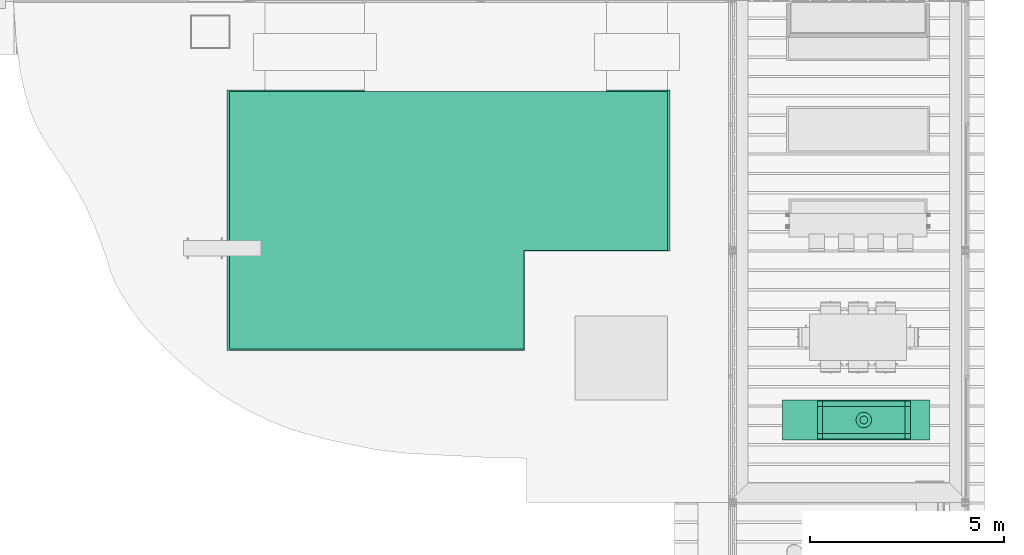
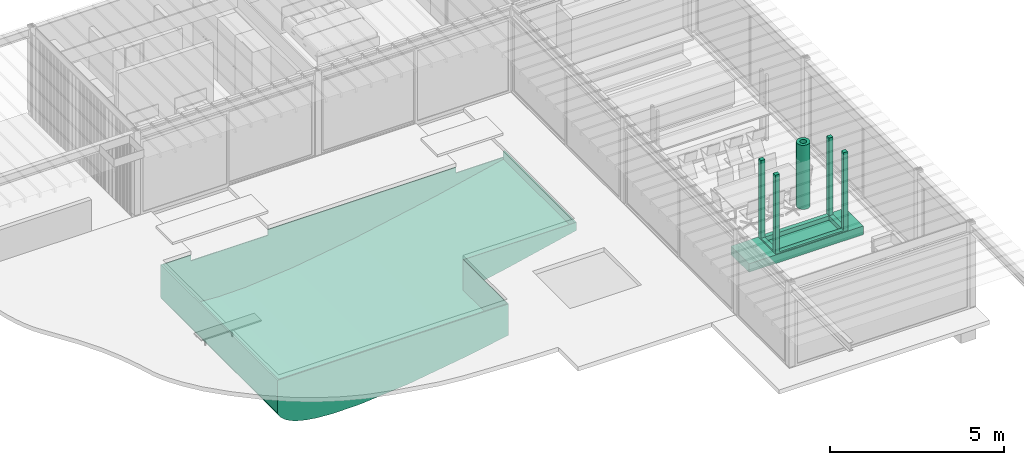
# One storey, part 22 of 28: 1 sanitary terminal, 1 space heater.
"""IFC4X3_ADD2 building model written with IfcOpenShell, lengths in metres."""

from ifc_helpers import new_model, si_unit, direction, frame, origin_with_axes, place, context, subcontext, project, spatial, faceted_brep, triangles, source, transform, mapped, material, element, save


model = new_model("IFC4X3_ADD2")

# Units and contexts
model_context = context("Model", 3, precision=1e-05, world=origin_with_axes(), true_north=direction((0.0, 1.0)))
body_context = subcontext(model_context, "Body", "Model", "MODEL_VIEW")
ifc_project = project(units=[si_unit("LENGTHUNIT", "METRE"), si_unit("AREAUNIT", "SQUARE_METRE"), si_unit("VOLUMEUNIT", "CUBIC_METRE"), si_unit("PLANEANGLEUNIT", "RADIAN"), si_unit("TIMEUNIT", "SECOND"), si_unit("MASSUNIT", "GRAM")], contexts=[model_context])

# Site, building, storey, space
site_placement = place(None, origin_with_axes())
site = spatial("IfcSite", under=ifc_project, at=site_placement, Name="Site", CompositionType="ELEMENT")
building_placement = place(site_placement, origin_with_axes())
building = spatial("IfcBuilding", under=site, at=building_placement, Name="Default Building")
storey_placement = place(building_placement, frame((0.0, 0.0, -0.08), z_axis=(0.0, 0.0, 1.0), x_axis=(1.0, 0.0, 0.0)))
storey = spatial("IfcBuildingStorey", under=building, at=storey_placement, Name="Gruendung", Elevation=-0.08)
space_placement = place(storey_placement, frame((19.1, 9.5, 0.08), z_axis=(0.0, 0.0, 1.0), x_axis=(0.0, -1.0, 0.0)))
space = spatial("IfcSpace", under=storey, at=space_placement, Name="Space", CompositionType="ELEMENT", PredefinedType="SPACE")

# Space heater
ifc_material = material(Name="Default")
shared_shape = source(origin_with_axes(), body_context, "Body", None, [
    triangles([(-1.520414, 0.35281, 0.2), (0.60585, 0.35281, 0.2), (-1.520414, 0.35281, 0.35), (0.60585, 0.35281, 0.35), (0.60585, 0.489679, 0.2), (0.60585, 0.489679, 0.35), (-1.520414, 0.489679, 0.2), (-1.520414, 0.489679, 0.35), (0.60585, -0.353453, 0.2), (0.742718, -0.353453, 0.2), (0.60585, -0.353453, 0.35), (0.742718, -0.353453, 0.35), (0.742718, 0.35281, 0.2), (0.742718, 0.35281, 0.35), (-1.520414, -0.4903210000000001, 0.2), (0.60585, -0.4903210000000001, 0.2), (-1.520414, -0.4903210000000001, 0.35), (0.60585, -0.4903210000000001, 0.35), (-1.520414, -0.353453, 0.2), (-1.520414, -0.353453, 0.35), (-1.657282, -0.353453, 0.2), (-1.657282, -0.353453, 0.35), (-1.657282, 0.35281, 0.2), (-1.657282, 0.35281, 0.35)], [[1, 2, 3], [4, 3, 2], [2, 5, 4], [6, 4, 5], [5, 7, 6], [8, 6, 7], [7, 1, 8], [3, 8, 1], [7, 5, 2], [7, 2, 1], [8, 6, 4], [8, 4, 3], [9, 10, 11], [12, 11, 10], [10, 13, 12], [14, 12, 13], [13, 2, 14], [4, 14, 2], [2, 9, 4], [11, 4, 9], [2, 13, 10], [2, 10, 9], [4, 14, 12], [4, 12, 11], [15, 16, 17], [18, 17, 16], [16, 9, 18], [11, 18, 9], [9, 19, 11], [20, 11, 19], [19, 15, 20], [17, 20, 15], [19, 9, 16], [19, 16, 15], [20, 11, 18], [20, 18, 17], [21, 19, 22], [20, 22, 19], [19, 1, 20], [3, 20, 1], [1, 23, 3], [24, 3, 23], [23, 21, 24], [22, 24, 21], [23, 1, 19], [23, 19, 21], [24, 3, 20], [24, 20, 22]]),
    faceted_brep([(-1.520414, -0.353453, 3.075), (-1.520414, -0.4903210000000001, 3.075), (-1.657282, -0.4903210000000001, 3.075), (-1.657282, -0.353453, 3.075), (-1.520414, -0.353453, 0.0), (-1.520414, -0.4903210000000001, 0.0), (-1.657282, -0.4903210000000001, 0.0), (-1.657282, -0.353453, 0.0)], [[[0, 1, 2, 3]], [[4, 5, 6, 7]], [[3, 7, 6, 2]], [[0, 4, 7, 3]], [[1, 5, 4, 0]], [[2, 6, 5, 1]]]),
    faceted_brep([(0.742718, -0.353453, 3.075), (0.742718, -0.4903210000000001, 3.075), (0.60585, -0.4903210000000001, 3.075), (0.60585, -0.353453, 3.075), (0.742718, -0.353453, 0.0), (0.742718, -0.4903210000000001, 0.0), (0.60585, -0.4903210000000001, 0.0), (0.60585, -0.353453, 0.0)], [[[0, 1, 2, 3]], [[4, 5, 6, 7]], [[3, 7, 6, 2]], [[0, 4, 7, 3]], [[1, 5, 4, 0]], [[2, 6, 5, 1]]]),
    faceted_brep([(0.742718, 0.489679, 3.075), (0.742718, 0.35281, 3.075), (0.60585, 0.35281, 3.075), (0.60585, 0.489679, 3.075), (0.742718, 0.489679, 0.0), (0.742718, 0.35281, 0.0), (0.60585, 0.35281, 0.0), (0.60585, 0.489679, 0.0)], [[[0, 1, 2, 3]], [[4, 5, 6, 7]], [[3, 7, 6, 2]], [[0, 4, 7, 3]], [[1, 5, 4, 0]], [[2, 6, 5, 1]]]),
    faceted_brep([(-1.520414, 0.35281, 3.075), (-1.520414, 0.489679, 3.075), (-1.657282, 0.489679, 3.075), (-1.657282, 0.35281, 3.075), (-1.520414, 0.489679, 0.0), (-1.520414, 0.35281, 0.0), (-1.657282, 0.35281, 0.0), (-1.657282, 0.489679, 0.0)], [[[0, 1, 2, 3]], [[4, 5, 6, 7]], [[2, 7, 6, 3]], [[1, 4, 7, 2]], [[0, 5, 4, 1]], [[3, 6, 5, 0]]]),
    faceted_brep([(-1.657282, 0.489679, 0.2), (0.742718, 0.489679, 0.2), (0.742718, 0.489679, 0.3), (-1.657282, 0.489679, 0.3), (0.742718, -0.4903210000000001, 0.2), (0.742718, -0.4903210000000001, 0.3), (-1.657282, -0.4903210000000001, 0.2), (-1.657282, -0.4903210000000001, 0.3), (-2.557282, 0.52, 0.3), (1.242718, 0.52, 0.3), (1.242718, 0.52, 0.0), (-2.557282, 0.52, 0.0), (1.242718, -0.52, 0.3), (1.242718, -0.52, 0.0), (-2.557282, -0.52, 0.3), (-2.557282, -0.52, 0.0)], [[[0, 1, 2, 3]], [[1, 4, 5, 2]], [[4, 6, 7, 5]], [[4, 1, 0, 6]], [[6, 0, 3, 7]], [[8, 9, 10, 11]], [[9, 12, 13, 10]], [[12, 14, 15, 13]], [[10, 13, 15, 11]], [[14, 8, 11, 15]], [[9, 8, 14, 12], [5, 7, 3, 2]]]),
    faceted_brep([(-0.557282, -0.000321, 3.55), (-0.556902, -0.009037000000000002, 3.55), (-0.556902, -0.009037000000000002, 1.3), (-0.557282, -0.000321, 1.3), (-0.555763, -0.017686, 3.55), (-0.555763, -0.017686, 1.3), (-0.553875, -0.026203, 3.55), (-0.553875, -0.026203, 1.3), (-0.551252, -0.03452300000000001, 3.55), (-0.551252, -0.03452300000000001, 1.3), (-0.547913, -0.042583, 3.55), (-0.547913, -0.042583, 1.3), (-0.543885, -0.050321, 3.55), (-0.543885, -0.050321, 1.3), (-0.539197, -0.057679, 3.55), (-0.539197, -0.057679, 1.3), (-0.533887, -0.06459999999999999, 3.55), (-0.533887, -0.06459999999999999, 1.3), (-0.527993, -0.071032, 3.55), (-0.527993, -0.071032, 1.3), (-0.521561, -0.07692600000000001, 3.55), (-0.521561, -0.07692600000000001, 1.3), (-0.51464, -0.08223699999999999, 3.55), (-0.51464, -0.08223699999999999, 1.3), (-0.507282, -0.08692400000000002, 3.55), (-0.507282, -0.08692400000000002, 1.3), (-0.499544, -0.090952, 3.55), (-0.499544, -0.090952, 1.3), (-0.491484, -0.094291, 3.55), (-0.491484, -0.094291, 1.3), (-0.483164, -0.096914, 3.55), (-0.483164, -0.096914, 1.3), (-0.474647, -0.09880200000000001, 3.55), (-0.474647, -0.09880200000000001, 1.3), (-0.465998, -0.099941, 3.55), (-0.465998, -0.099941, 1.3), (-0.457282, -0.100321, 3.55), (-0.457282, -0.100321, 1.3), (-0.448567, -0.099941, 3.55), (-0.448567, -0.099941, 1.3), (-0.439917, -0.09880200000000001, 3.55), (-0.439917, -0.09880200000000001, 1.3), (-0.4314, -0.096914, 3.55), (-0.4314, -0.096914, 1.3), (-0.42308, -0.094291, 3.55), (-0.42308, -0.094291, 1.3), (-0.41502, -0.090952, 3.55), (-0.41502, -0.090952, 1.3), (-0.407282, -0.08692400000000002, 3.55), (-0.407282, -0.08692400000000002, 1.3), (-0.399925, -0.08223699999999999, 3.55), (-0.399925, -0.08223699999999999, 1.3), (-0.393003, -0.07692600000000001, 3.55), (-0.393003, -0.07692600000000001, 1.3), (-0.386572, -0.071032, 3.55), (-0.386572, -0.071032, 1.3), (-0.380678, -0.06459999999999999, 3.55), (-0.380678, -0.06459999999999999, 1.3), (-0.375367, -0.057679, 3.55), (-0.375367, -0.057679, 1.3), (-0.37068, -0.050321, 3.55), (-0.37068, -0.050321, 1.3), (-0.366651, -0.042583, 3.55), (-0.366651, -0.042583, 1.3), (-0.363313, -0.03452300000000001, 3.55), (-0.363313, -0.03452300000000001, 1.3), (-0.36069, -0.026203, 3.55), (-0.36069, -0.026203, 1.3), (-0.358801, -0.017686, 3.55), (-0.358801, -0.017686, 1.3), (-0.357663, -0.009037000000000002, 3.55), (-0.357663, -0.009037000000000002, 1.3), (-0.357282, -0.000321, 3.55), (-0.357282, -0.000321, 1.3), (-0.357663, 0.008394, 3.55), (-0.357663, 0.008394, 1.3), (-0.358801, 0.017043, 3.55), (-0.358801, 0.017043, 1.3), (-0.36069, 0.025561, 3.55), (-0.36069, 0.025561, 1.3), (-0.363313, 0.033881, 3.55), (-0.363313, 0.033881, 1.3), (-0.366651, 0.04194, 3.55), (-0.366651, 0.04194, 1.3), (-0.37068, 0.049679, 3.55), (-0.37068, 0.049679, 1.3), (-0.375367, 0.057036, 3.55), (-0.375367, 0.057036, 1.3), (-0.380678, 0.063957, 3.55), (-0.380678, 0.063957, 1.3), (-0.386572, 0.070389, 3.55), (-0.386572, 0.070389, 1.3), (-0.393003, 0.076283, 3.55), (-0.393003, 0.076283, 1.3), (-0.399925, 0.081594, 3.55), (-0.399925, 0.081594, 1.3), (-0.407282, 0.08628100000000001, 3.55), (-0.407282, 0.08628100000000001, 1.3), (-0.41502, 0.090309, 3.55), (-0.41502, 0.090309, 1.3), (-0.42308, 0.093648, 3.55), (-0.42308, 0.093648, 1.3), (-0.4314, 0.09627100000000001, 3.55), (-0.4314, 0.09627100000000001, 1.3), (-0.439917, 0.09815900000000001, 3.55), (-0.439917, 0.09815900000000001, 1.3), (-0.448567, 0.099298, 3.55), (-0.448567, 0.099298, 1.3), (-0.457282, 0.099679, 3.55), (-0.457282, 0.099679, 1.3), (-0.465998, 0.099298, 3.55), (-0.465998, 0.099298, 1.3), (-0.474647, 0.09815900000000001, 3.55), (-0.474647, 0.09815900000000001, 1.3), (-0.483164, 0.09627100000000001, 3.55), (-0.483164, 0.09627100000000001, 1.3), (-0.491484, 0.093648, 3.55), (-0.491484, 0.093648, 1.3), (-0.499544, 0.090309, 3.55), (-0.499544, 0.090309, 1.3), (-0.507282, 0.08628100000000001, 3.55), (-0.507282, 0.08628100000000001, 1.3), (-0.51464, 0.081594, 3.55), (-0.51464, 0.081594, 1.3), (-0.521561, 0.076283, 3.55), (-0.521561, 0.076283, 1.3), (-0.527993, 0.070389, 3.55), (-0.527993, 0.070389, 1.3), (-0.533887, 0.063957, 3.55), (-0.533887, 0.063957, 1.3), (-0.539197, 0.057036, 3.55), (-0.539197, 0.057036, 1.3), (-0.543885, 0.049679, 3.55), (-0.543885, 0.049679, 1.3), (-0.547913, 0.04194, 3.55), (-0.547913, 0.04194, 1.3), (-0.551252, 0.033881, 3.55), (-0.551252, 0.033881, 1.3), (-0.553875, 0.025561, 3.55), (-0.553875, 0.025561, 1.3), (-0.555763, 0.017043, 3.55), (-0.555763, 0.017043, 1.3), (-0.556902, 0.008394, 3.55), (-0.556902, 0.008394, 1.3), (-0.657282, -0.000352, 3.55), (-0.656521, 0.017079, 3.55), (-0.656521, 0.017079, 1.3), (-0.657282, -0.000352, 1.3), (-0.654244, 0.034378, 3.55), (-0.654244, 0.034378, 1.3), (-0.650467, 0.051412, 3.55), (-0.650467, 0.051412, 1.3), (-0.645221, 0.068052, 3.55), (-0.645221, 0.068052, 1.3), (-0.638544, 0.084172, 3.55), (-0.638544, 0.084172, 1.3), (-0.630487, 0.099648, 3.55), (-0.630487, 0.099648, 1.3), (-0.621113, 0.114363, 3.55), (-0.621113, 0.114363, 1.3), (-0.610491, 0.128206, 3.55), (-0.610491, 0.128206, 1.3), (-0.598704, 0.141069, 3.55), (-0.598704, 0.141069, 1.3), (-0.58584, 0.152857, 3.55), (-0.58584, 0.152857, 1.3), (-0.571998, 0.163478, 3.55), (-0.571998, 0.163478, 1.3), (-0.557282, 0.172853, 3.55), (-0.557282, 0.172853, 1.3), (-0.541806, 0.18091, 3.55), (-0.541806, 0.18091, 1.3), (-0.5256860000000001, 0.187587, 3.55), (-0.5256860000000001, 0.187587, 1.3), (-0.509046, 0.192833, 3.55), (-0.509046, 0.192833, 1.3), (-0.492012, 0.19661, 3.55), (-0.492012, 0.19661, 1.3), (-0.4747130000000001, 0.198887, 3.55), (-0.4747130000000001, 0.198887, 1.3), (-0.457282, 0.199648, 3.55), (-0.457282, 0.199648, 1.3), (-0.439851, 0.198887, 3.55), (-0.439851, 0.198887, 1.3), (-0.422553, 0.19661, 3.55), (-0.422553, 0.19661, 1.3), (-0.405518, 0.192833, 3.55), (-0.405518, 0.192833, 1.3), (-0.388878, 0.187587, 3.55), (-0.388878, 0.187587, 1.3), (-0.372759, 0.18091, 3.55), (-0.372759, 0.18091, 1.3), (-0.357282, 0.172853, 3.55), (-0.357282, 0.172853, 1.3), (-0.342567, 0.163478, 3.55), (-0.342567, 0.163478, 1.3), (-0.328725, 0.152857, 3.55), (-0.328725, 0.152857, 1.3), (-0.315861, 0.141069, 3.55), (-0.315861, 0.141069, 1.3), (-0.304073, 0.128206, 3.55), (-0.304073, 0.128206, 1.3), (-0.293452, 0.114363, 3.55), (-0.293452, 0.114363, 1.3), (-0.284077, 0.099648, 3.55), (-0.284077, 0.099648, 1.3), (-0.276021, 0.084172, 3.55), (-0.276021, 0.084172, 1.3), (-0.269344, 0.068052, 3.55), (-0.269344, 0.068052, 1.3), (-0.264097, 0.051412, 3.55), (-0.264097, 0.051412, 1.3), (-0.260321, 0.034378, 3.55), (-0.260321, 0.034378, 1.3), (-0.258043, 0.017079, 3.55), (-0.258043, 0.017079, 1.3), (-0.257282, -0.000352, 3.55), (-0.257282, -0.000352, 1.3), (-0.258043, -0.017783, 3.55), (-0.258043, -0.017783, 1.3), (-0.260321, -0.035082, 3.55), (-0.260321, -0.035082, 1.3), (-0.264097, -0.052116, 3.55), (-0.264097, -0.052116, 1.3), (-0.269344, -0.068756, 3.55), (-0.269344, -0.068756, 1.3), (-0.276021, -0.08487600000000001, 3.55), (-0.276021, -0.08487600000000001, 1.3), (-0.284077, -0.100352, 3.55), (-0.284077, -0.100352, 1.3), (-0.293452, -0.115067, 3.55), (-0.293452, -0.115067, 1.3), (-0.304073, -0.12891, 3.55), (-0.304073, -0.12891, 1.3), (-0.315861, -0.141773, 3.55), (-0.315861, -0.141773, 1.3), (-0.328725, -0.153561, 3.55), (-0.328725, -0.153561, 1.3), (-0.342567, -0.164182, 3.55), (-0.342567, -0.164182, 1.3), (-0.357282, -0.173557, 3.55), (-0.357282, -0.173557, 1.3), (-0.372759, -0.181614, 3.55), (-0.372759, -0.181614, 1.3), (-0.388878, -0.188291, 3.55), (-0.388878, -0.188291, 1.3), (-0.405518, -0.193537, 3.55), (-0.405518, -0.193537, 1.3), (-0.422553, -0.197314, 3.55), (-0.422553, -0.197314, 1.3), (-0.439851, -0.199591, 3.55), (-0.439851, -0.199591, 1.3), (-0.457282, -0.200352, 3.55), (-0.457282, -0.200352, 1.3), (-0.4747130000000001, -0.199591, 3.55), (-0.4747130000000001, -0.199591, 1.3), (-0.492012, -0.197314, 3.55), (-0.492012, -0.197314, 1.3), (-0.509046, -0.193537, 3.55), (-0.509046, -0.193537, 1.3), (-0.5256860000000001, -0.188291, 3.55), (-0.5256860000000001, -0.188291, 1.3), (-0.541806, -0.181614, 3.55), (-0.541806, -0.181614, 1.3), (-0.557282, -0.173557, 3.55), (-0.557282, -0.173557, 1.3), (-0.571998, -0.164182, 3.55), (-0.571998, -0.164182, 1.3), (-0.58584, -0.153561, 3.55), (-0.58584, -0.153561, 1.3), (-0.598704, -0.141773, 3.55), (-0.598704, -0.141773, 1.3), (-0.610491, -0.12891, 3.55), (-0.610491, -0.12891, 1.3), (-0.621113, -0.115067, 3.55), (-0.621113, -0.115067, 1.3), (-0.630487, -0.100352, 3.55), (-0.630487, -0.100352, 1.3), (-0.638544, -0.08487600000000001, 3.55), (-0.638544, -0.08487600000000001, 1.3), (-0.645221, -0.068756, 3.55), (-0.645221, -0.068756, 1.3), (-0.650467, -0.052116, 3.55), (-0.650467, -0.052116, 1.3), (-0.654244, -0.035082, 3.55), (-0.654244, -0.035082, 1.3), (-0.656521, -0.017783, 3.55), (-0.656521, -0.017783, 1.3)], [[[0, 1, 2, 3]], [[1, 4, 5, 2]], [[4, 6, 7, 5]], [[6, 8, 9, 7]], [[8, 10, 11, 9]], [[10, 12, 13, 11]], [[12, 14, 15, 13]], [[14, 16, 17, 15]], [[16, 18, 19, 17]], [[18, 20, 21, 19]], [[20, 22, 23, 21]], [[22, 24, 25, 23]], [[24, 26, 27, 25]], [[26, 28, 29, 27]], [[28, 30, 31, 29]], [[30, 32, 33, 31]], [[32, 34, 35, 33]], [[34, 36, 37, 35]], [[36, 38, 39, 37]], [[38, 40, 41, 39]], [[40, 42, 43, 41]], [[42, 44, 45, 43]], [[44, 46, 47, 45]], [[46, 48, 49, 47]], [[48, 50, 51, 49]], [[50, 52, 53, 51]], [[52, 54, 55, 53]], [[54, 56, 57, 55]], [[56, 58, 59, 57]], [[58, 60, 61, 59]], [[60, 62, 63, 61]], [[62, 64, 65, 63]], [[64, 66, 67, 65]], [[66, 68, 69, 67]], [[68, 70, 71, 69]], [[70, 72, 73, 71]], [[72, 74, 75, 73]], [[74, 76, 77, 75]], [[76, 78, 79, 77]], [[78, 80, 81, 79]], [[80, 82, 83, 81]], [[82, 84, 85, 83]], [[84, 86, 87, 85]], [[86, 88, 89, 87]], [[88, 90, 91, 89]], [[90, 92, 93, 91]], [[92, 94, 95, 93]], [[94, 96, 97, 95]], [[96, 98, 99, 97]], [[98, 100, 101, 99]], [[100, 102, 103, 101]], [[102, 104, 105, 103]], [[104, 106, 107, 105]], [[106, 108, 109, 107]], [[108, 110, 111, 109]], [[110, 112, 113, 111]], [[112, 114, 115, 113]], [[114, 116, 117, 115]], [[116, 118, 119, 117]], [[118, 120, 121, 119]], [[120, 122, 123, 121]], [[122, 124, 125, 123]], [[124, 126, 127, 125]], [[126, 128, 129, 127]], [[128, 130, 131, 129]], [[130, 132, 133, 131]], [[132, 134, 135, 133]], [[134, 136, 137, 135]], [[136, 138, 139, 137]], [[138, 140, 141, 139]], [[140, 142, 143, 141]], [[142, 0, 3, 143]], [[144, 145, 146, 147]], [[145, 148, 149, 146]], [[148, 150, 151, 149]], [[150, 152, 153, 151]], [[152, 154, 155, 153]], [[154, 156, 157, 155]], [[156, 158, 159, 157]], [[158, 160, 161, 159]], [[160, 162, 163, 161]], [[162, 164, 165, 163]], [[164, 166, 167, 165]], [[166, 168, 169, 167]], [[168, 170, 171, 169]], [[170, 172, 173, 171]], [[172, 174, 175, 173]], [[174, 176, 177, 175]], [[176, 178, 179, 177]], [[178, 180, 181, 179]], [[180, 182, 183, 181]], [[182, 184, 185, 183]], [[184, 186, 187, 185]], [[186, 188, 189, 187]], [[188, 190, 191, 189]], [[190, 192, 193, 191]], [[192, 194, 195, 193]], [[194, 196, 197, 195]], [[196, 198, 199, 197]], [[198, 200, 201, 199]], [[200, 202, 203, 201]], [[202, 204, 205, 203]], [[204, 206, 207, 205]], [[206, 208, 209, 207]], [[208, 210, 211, 209]], [[210, 212, 213, 211]], [[212, 214, 215, 213]], [[214, 216, 217, 215]], [[216, 218, 219, 217]], [[218, 220, 221, 219]], [[220, 222, 223, 221]], [[222, 224, 225, 223]], [[224, 226, 227, 225]], [[226, 228, 229, 227]], [[228, 230, 231, 229]], [[230, 232, 233, 231]], [[232, 234, 235, 233]], [[234, 236, 237, 235]], [[236, 238, 239, 237]], [[238, 240, 241, 239]], [[240, 242, 243, 241]], [[242, 244, 245, 243]], [[244, 246, 247, 245]], [[246, 248, 249, 247]], [[248, 250, 251, 249]], [[250, 252, 253, 251]], [[252, 254, 255, 253]], [[254, 256, 257, 255]], [[256, 258, 259, 257]], [[258, 260, 261, 259]], [[260, 262, 263, 261]], [[262, 264, 265, 263]], [[264, 266, 267, 265]], [[266, 268, 269, 267]], [[268, 270, 271, 269]], [[270, 272, 273, 271]], [[272, 274, 275, 273]], [[274, 276, 277, 275]], [[276, 278, 279, 277]], [[278, 280, 281, 279]], [[280, 282, 283, 281]], [[282, 284, 285, 283]], [[284, 286, 287, 285]], [[144, 286, 284, 282, 280, 278, 276, 274, 272, 270, 268, 266, 264, 262, 260, 258, 256, 254, 252, 250, 248, 246, 244, 242, 240, 238, 236, 234, 232, 230, 228, 226, 224, 222, 220, 218, 216, 214, 212, 210, 208, 206, 204, 202, 200, 198, 196, 194, 192, 190, 188, 186, 184, 182, 180, 178, 176, 174, 172, 170, 168, 166, 164, 162, 160, 158, 156, 154, 152, 150, 148, 145], [6, 4, 1, 0, 142, 140, 138, 136, 134, 132, 130, 128, 126, 124, 122, 120, 118, 116, 114, 112, 110, 108, 106, 104, 102, 100, 98, 96, 94, 92, 90, 88, 86, 84, 82, 80, 78, 76, 74, 72, 70, 68, 66, 64, 62, 60, 58, 56, 54, 52, 50, 48, 46, 44, 42, 40, 38, 36, 34, 32, 30, 28, 26, 24, 22, 20, 18, 16, 14, 12, 10, 8]], [[286, 144, 147, 287]], [[157, 159, 161, 163, 165, 167, 169, 171, 173, 175, 177, 179, 181, 183, 185, 187, 189, 191, 193, 195, 197, 199, 201, 203, 205, 207, 209, 211, 213, 215, 217, 219, 221, 223, 225, 227, 229, 231, 233, 235, 237, 239, 241, 243, 245, 247, 249, 251, 253, 255, 257, 259, 261, 263, 265, 267, 269, 271, 273, 275, 277, 279, 281, 283, 285, 287, 147, 146, 149, 151, 153, 155], [127, 129, 131, 133, 135, 137, 139, 141, 143, 3, 2, 5, 7, 9, 11, 13, 15, 17, 19, 21, 23, 25, 27, 29, 31, 33, 35, 37, 39, 41, 43, 45, 47, 49, 51, 53, 55, 57, 59, 61, 63, 65, 67, 69, 71, 73, 75, 77, 79, 81, 83, 85, 87, 89, 91, 93, 95, 97, 99, 101, 103, 105, 107, 109, 111, 113, 115, 117, 119, 121, 123, 125]]]),
])
space_heater_placement = place(storey_placement, frame((22.84219064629, 5.13090774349, 0.08), z_axis=(0.0, 0.0, 1.0), x_axis=(1.0, 0.0, 0.0)))
element("IfcSpaceHeater", 1, at=space_heater_placement, inside=space, material=ifc_material, Name="IfcSpaceHeater", ObjectType="Moebiliar-Kamin", context=body_context, shape_type="MappedRepresentation", body=[
    mapped(shared_shape, transform((0.0, 0.0, 0.0))),
])

# Sanitary terminal
sanitary_terminal_placement = place(storey_placement, frame((5.957275, 6.928765, -1.913855), z_axis=(0.0, 0.0, 1.0), x_axis=(1.0, 0.0, 0.0)))
element("IfcSanitaryTerminal", 2, at=sanitary_terminal_placement, inside=storey, context=body_context, shape_type="Brep", body=[
    faceted_brep([(7.677978, 2.563385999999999, 0.7109120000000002), (7.677978, 2.563385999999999, 1.813827), (7.677978, 0.0, 1.813827), (7.677978, 0.0, 0.7109120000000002), (11.424281, 2.563385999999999, 1.529934), (11.424281, 2.563385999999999, 1.813827), (9.102134, 2.563385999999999, 1.0045), (6.401167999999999, 0.0, 0.4724490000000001), (4.375398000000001, 0.0, 0.1625400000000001), (4.375398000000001, 6.712315, 0.1625400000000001), (6.401167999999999, 6.712315, 0.4724490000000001), (2.768206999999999, 0.0, 0.01398100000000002), (2.768206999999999, 6.712315, 0.01398100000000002), (1.861351, 0.0, 0.0), (1.861351, 6.712315, 0.0), (1.324225, 0.0, 0.03481500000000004), (1.324225, 6.712315, 0.03481500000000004), (0.9786950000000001, 0.0, 0.08550100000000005), (0.9786950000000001, 6.712315, 0.08550100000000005), (0.7419799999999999, 0.0, 0.1402170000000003), (0.7419799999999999, 6.712315, 0.1402170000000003), (0.5919680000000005, 0.0, 0.187289), (0.5919680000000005, 6.712315, 0.187289), (0.4743650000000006, 0.0, 0.2336690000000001), (0.4743650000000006, 6.712315, 0.2336690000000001), (0.3803049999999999, 0.0, 0.2789350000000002), (0.3803049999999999, 6.712315, 0.2789350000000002), (0.3037660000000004, 0.0, 0.3230260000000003), (0.3037660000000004, 6.712315, 0.3230260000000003), (0.2405590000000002, 0.0, 0.3660700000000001), (0.2405590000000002, 6.712315, 0.3660700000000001), (0.1877059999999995, 0.0, 0.4083040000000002), (0.1877059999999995, 6.712315, 0.4083040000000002), (0.1430600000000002, 0.0, 0.4500280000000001), (0.1430600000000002, 6.712315, 0.4500280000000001), (0.1050530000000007, 0.0, 0.4915890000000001), (0.1050530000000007, 6.712315, 0.4915890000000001), (0.07253699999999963, 0.0, 0.5333750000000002), (0.07253699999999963, 6.712315, 0.5333750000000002), (0.04468400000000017, 0.0, 0.5758230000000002), (0.04468400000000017, 6.712315, 0.5758230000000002), (0.02091000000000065, 0.0, 0.6194380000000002), (0.02091000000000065, 6.712315, 0.6194380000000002), (0.0, 0.0, 0.6669820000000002), (0.0, 6.712315, 0.6669820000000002), (9.102134, 6.712315, 1.0045), (11.424281, 6.712315, 1.529934), (7.658514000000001, 2.571235, 1.813827), (7.658514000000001, 0.03322899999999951, 1.813827), (0.061477, 0.03322899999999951, 1.813827), (0.061477, 6.679086, 1.813827), (0.9887189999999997, 6.679086, 1.813827), (0.9887189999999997, 6.712315, 1.813827), (0.005049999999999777, 6.712315, 1.813827), (0.005049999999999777, 0.0, 1.813827), (11.424281, 6.712315, 1.813827), (11.367725, 6.712315, 1.813827), (11.367725, 2.571235, 1.813827), (7.658514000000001, 2.571235, 0.7398600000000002), (7.658514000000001, 0.03322899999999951, 0.7398600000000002), (11.367725, 2.571235, 1.550774), (9.111768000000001, 2.571235, 1.039829), (0.05655600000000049, 0.03322899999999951, 0.6963650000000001), (0.07725899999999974, 0.03322899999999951, 0.649292), (0.07725899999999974, 6.679086, 0.649292), (0.05655600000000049, 6.679086, 0.6963650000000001), (0.100797, 0.03322899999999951, 0.606109), (0.100797, 6.679086, 0.606109), (0.1283749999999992, 0.03322899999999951, 0.5640820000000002), (0.1283749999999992, 6.679086, 0.5640820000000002), (0.1605679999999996, 0.03322899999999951, 0.5227090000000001), (0.1605679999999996, 6.679086, 0.5227090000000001), (0.1981989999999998, 0.03322899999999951, 0.48156), (0.1981989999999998, 6.679086, 0.48156), (0.2424029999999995, 0.03322899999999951, 0.4402480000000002), (0.2424029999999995, 6.679086, 0.4402480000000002), (0.2947329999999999, 0.03322899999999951, 0.3984320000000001), (0.2947329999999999, 6.679086, 0.3984320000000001), (0.3573139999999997, 0.03322899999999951, 0.3558150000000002), (0.3573139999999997, 6.679086, 0.3558150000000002), (0.4330949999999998, 0.03322899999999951, 0.3121610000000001), (0.4330949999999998, 6.679086, 0.3121610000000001), (0.526224, 0.03322899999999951, 0.2673420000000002), (0.526224, 6.679086, 0.2673420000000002), (0.6426629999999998, 0.03322899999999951, 0.2214210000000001), (0.6426629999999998, 6.679086, 0.2214210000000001), (0.7911900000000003, 0.03322899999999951, 0.1748150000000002), (0.7911900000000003, 6.679086, 0.1748150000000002), (1.025561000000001, 0.03322899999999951, 0.1206420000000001), (1.025561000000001, 6.679086, 0.1206420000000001), (1.367669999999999, 0.03322899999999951, 0.07045800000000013), (1.367669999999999, 6.679086, 0.07045800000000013), (1.899477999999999, 0.03322899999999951, 0.03598700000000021), (1.899477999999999, 6.679086, 0.03598700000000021), (2.797354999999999, 0.03322899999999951, 0.04983000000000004), (2.797354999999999, 6.679086, 0.04983000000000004), (4.397468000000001, 0.03322899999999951, 0.1980270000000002), (4.397468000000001, 6.679086, 0.1980270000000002), (6.416612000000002, 0.03322899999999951, 0.5076780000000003), (6.416612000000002, 6.679086, 0.5076780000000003), (11.367725, 6.679086, 1.550774), (9.111768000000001, 6.679086, 1.039829), (11.367725, 6.712315, 1.613855), (11.367725, 6.679086, 1.613855), (0.9887189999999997, 6.679086, 1.613855), (0.9887189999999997, 6.712315, 1.613855), (3.542725, 6.679086, 1.613855), (3.542725, 6.712315, 1.613855), (3.542725, 6.679086, 1.813827), (3.542725, 6.712315, 1.813827), (9.792725, 6.712315, 1.613855), (9.792725, 6.679086, 1.613855), (9.792725, 6.712315, 1.813827), (9.792725, 6.679086, 1.813827)], [[[0, 1, 2, 3]], [[4, 5, 1, 0, 6]], [[7, 8, 9, 10]], [[8, 11, 12, 9]], [[11, 13, 14, 12]], [[13, 15, 16, 14]], [[15, 17, 18, 16]], [[17, 19, 20, 18]], [[19, 21, 22, 20]], [[21, 23, 24, 22]], [[23, 25, 26, 24]], [[25, 27, 28, 26]], [[27, 29, 30, 28]], [[29, 31, 32, 30]], [[31, 33, 34, 32]], [[33, 35, 36, 34]], [[35, 37, 38, 36]], [[37, 39, 40, 38]], [[39, 41, 42, 40]], [[41, 43, 44, 42]], [[45, 46, 4, 6]], [[3, 7, 10, 0]], [[0, 45, 6]], [[45, 0, 10]], [[47, 48, 49, 50, 51, 52, 53, 54, 2, 1, 5, 55, 56, 57]], [[43, 41, 39, 37, 35, 33, 31, 29, 27, 25, 23, 21, 19, 17, 15, 13, 11, 8, 7, 3, 2, 54]], [[43, 54, 53, 44]], [[4, 46, 55, 5]], [[58, 59, 48, 47]], [[57, 60, 61, 58, 47]], [[62, 63, 64, 65]], [[63, 66, 67, 64]], [[66, 68, 69, 67]], [[68, 70, 71, 69]], [[70, 72, 73, 71]], [[72, 74, 75, 73]], [[74, 76, 77, 75]], [[76, 78, 79, 77]], [[78, 80, 81, 79]], [[80, 82, 83, 81]], [[82, 84, 85, 83]], [[84, 86, 87, 85]], [[86, 88, 89, 87]], [[88, 90, 91, 89]], [[90, 92, 93, 91]], [[92, 94, 95, 93]], [[94, 96, 97, 95]], [[96, 98, 99, 97]], [[100, 101, 61, 60]], [[101, 58, 61]], [[98, 59, 58, 99]], [[58, 101, 99]], [[56, 102, 103, 100, 60, 57]], [[104, 105, 52, 51]], [[106, 107, 105, 104]], [[108, 109, 107, 106]], [[103, 102, 110, 111]], [[111, 110, 112, 113]], [[112, 110, 102, 56, 55, 46, 45, 10, 9, 12, 14, 16, 18, 20, 22, 24, 26, 28, 30, 32, 34, 36, 38, 40, 42, 44, 53, 52, 105, 107, 109]], [[108, 113, 112, 109]], [[65, 64, 67, 69, 71, 73, 75, 77, 79, 81, 83, 85, 87, 89, 91, 93, 95, 97, 99, 101, 100, 103, 111, 113, 108, 106, 104, 51, 50]], [[62, 65, 50, 49]], [[68, 66, 63, 62, 49, 48, 59, 98, 96, 94, 92, 90, 88, 86, 84, 82, 80, 78, 76, 74, 72, 70]]]),
])

save(model, "model.ifc")
